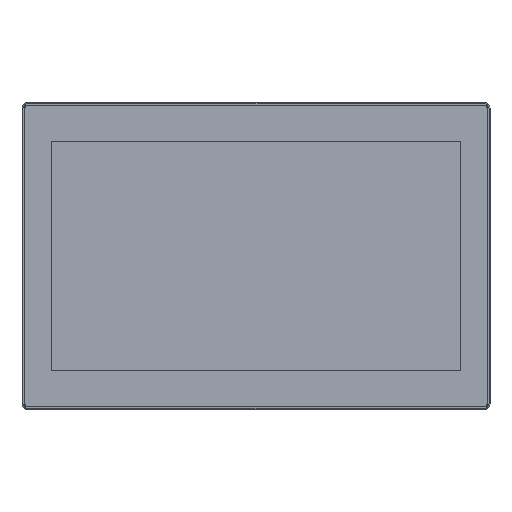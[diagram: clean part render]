
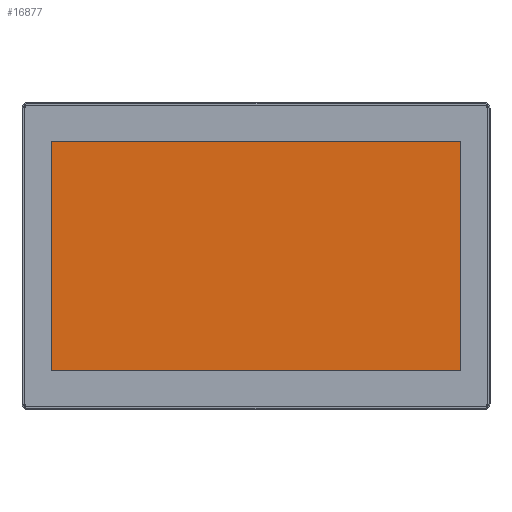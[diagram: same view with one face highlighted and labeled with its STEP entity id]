
A CAD part, top view. The second image highlights one B-rep face of the part: STEP entity #16877.
In plain terms, the highlighted planar face has unit normal (0, 0, 1).
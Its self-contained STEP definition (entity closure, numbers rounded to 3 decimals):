
#16614=DIRECTION('',(0.,1.,0.));
#16615=VECTOR('',#16614,193.99);
#16616=CARTESIAN_POINT('',(-172.28,-96.995,8.95));
#16617=LINE('',#16616,#16615);
#16618=DIRECTION('',(1.,0.,0.));
#16619=VECTOR('',#16618,344.56);
#16620=CARTESIAN_POINT('',(-172.28,96.995,8.95));
#16621=LINE('',#16620,#16619);
#16622=DIRECTION('',(0.,-1.,0.));
#16623=VECTOR('',#16622,193.99);
#16624=CARTESIAN_POINT('',(172.28,96.995,8.95));
#16625=LINE('',#16624,#16623);
#16626=DIRECTION('',(-1.,0.,0.));
#16627=VECTOR('',#16626,344.56);
#16628=CARTESIAN_POINT('',(172.28,-96.995,8.95));
#16629=LINE('',#16628,#16627);
#16678=CARTESIAN_POINT('',(-172.28,-96.995,8.95));
#16679=CARTESIAN_POINT('',(-172.28,96.995,8.95));
#16680=VERTEX_POINT('',#16678);
#16681=VERTEX_POINT('',#16679);
#16682=CARTESIAN_POINT('',(172.28,96.995,8.95));
#16683=VERTEX_POINT('',#16682);
#16684=CARTESIAN_POINT('',(172.28,-96.995,8.95));
#16685=VERTEX_POINT('',#16684);
#16863=CARTESIAN_POINT('',(0.,0.,8.95));
#16864=DIRECTION('',(0.,0.,-1.));
#16865=DIRECTION('',(-1.,0.,0.));
#16866=AXIS2_PLACEMENT_3D('',#16863,#16864,#16865);
#16867=PLANE('',#16866);
#16868=ORIENTED_EDGE('',*,*,#16853,.T.);
#16870=ORIENTED_EDGE('',*,*,#16869,.T.);
#16872=ORIENTED_EDGE('',*,*,#16871,.T.);
#16874=ORIENTED_EDGE('',*,*,#16873,.T.);
#16875=EDGE_LOOP('',(#16868,#16870,#16872,#16874));
#16876=FACE_OUTER_BOUND('',#16875,.F.);
#16877=ADVANCED_FACE('',(#16876),#16867,.F.);
#16853=EDGE_CURVE('',#16680,#16681,#16617,.T.);
#16869=EDGE_CURVE('',#16681,#16683,#16621,.T.);
#16871=EDGE_CURVE('',#16683,#16685,#16625,.T.);
#16873=EDGE_CURVE('',#16685,#16680,#16629,.T.);
